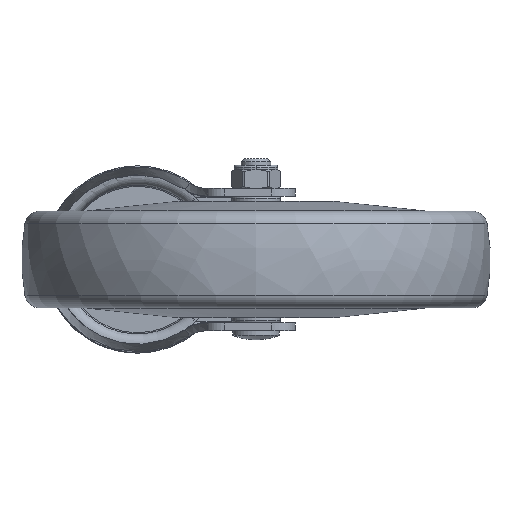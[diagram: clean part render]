
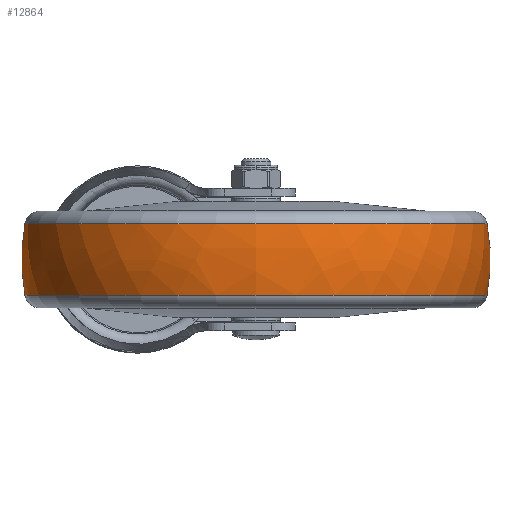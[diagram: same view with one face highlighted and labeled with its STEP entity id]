
A CAD part, front view. The second image highlights one B-rep face of the part: STEP entity #12864.
In plain terms, the highlighted free-form (B-spline) face has degree [3, 3] with [7, 4] control points.
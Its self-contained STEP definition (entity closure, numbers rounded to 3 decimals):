
#12093=CARTESIAN_POINT('',(-11.405,0.,0.));
#12094=DIRECTION('',(-1.,0.,0.));
#12095=DIRECTION('',(0.,1.,0.));
#12096=AXIS2_PLACEMENT_3D('',#12093,#12094,#12095);
#12108=CARTESIAN_POINT('',(0.,12.018,0.));
#12109=DIRECTION('',(0.,0.,1.));
#12110=DIRECTION('',(0.181,0.983,0.));
#12111=AXIS2_PLACEMENT_3D('',#12108,#12109,#12110);
#12113=CARTESIAN_POINT('',(0.,-12.018,0.));
#12114=DIRECTION('',(0.,0.,-1.));
#12115=DIRECTION('',(0.181,-0.983,0.));
#12116=AXIS2_PLACEMENT_3D('',#12113,#12114,#12115);
#12118=CARTESIAN_POINT('',(11.405,0.,0.));
#12119=DIRECTION('',(-1.,0.,0.));
#12120=DIRECTION('',(0.,1.,0.));
#12121=AXIS2_PLACEMENT_3D('',#12118,#12119,#12120);
#12370=CARTESIAN_POINT('',(11.405,73.977,0.));
#12372=VERTEX_POINT('',#12370);
#12373=CARTESIAN_POINT('',(-11.405,73.977,0.));
#12374=VERTEX_POINT('',#12373);
#12422=CARTESIAN_POINT('',(11.405,-73.977,
0.));
#12424=VERTEX_POINT('',#12422);
#12425=CARTESIAN_POINT('',(-11.405,-73.977,
0.));
#12426=VERTEX_POINT('',#12425);
#12828=CARTESIAN_POINT('',(-11.856,-73.746,
4.64));
#12829=CARTESIAN_POINT('',(-4.,-75.249,
4.734));
#12830=CARTESIAN_POINT('',(4.,-75.249,
4.734));
#12831=CARTESIAN_POINT('',(11.856,-73.746,
4.64));
#12832=CARTESIAN_POINT('',(-11.856,-76.601,
-40.744));
#12833=CARTESIAN_POINT('',(-4.,-78.162,
-41.574));
#12834=CARTESIAN_POINT('',(4.,-78.162,
-41.574));
#12835=CARTESIAN_POINT('',(11.856,-76.601,
-40.744));
#12836=CARTESIAN_POINT('',(-11.856,-45.473,
-73.892));
#12837=CARTESIAN_POINT('',(-4.,-46.399,
-75.397));
#12838=CARTESIAN_POINT('',(4.,-46.399,
-75.397));
#12839=CARTESIAN_POINT('',(11.856,-45.473,
-73.892));
#12840=CARTESIAN_POINT('',(-11.856,0.,
-73.892));
#12841=CARTESIAN_POINT('',(-4.,0.,
-75.397));
#12842=CARTESIAN_POINT('',(4.,0.,
-75.397));
#12843=CARTESIAN_POINT('',(11.856,0.,
-73.892));
#12844=CARTESIAN_POINT('',(-11.856,45.473,
-73.892));
#12845=CARTESIAN_POINT('',(-4.,46.399,
-75.397));
#12846=CARTESIAN_POINT('',(4.,46.399,
-75.397));
#12847=CARTESIAN_POINT('',(11.856,45.473,
-73.892));
#12848=CARTESIAN_POINT('',(-11.856,76.601,
-40.744));
#12849=CARTESIAN_POINT('',(-4.,78.162,
-41.574));
#12850=CARTESIAN_POINT('',(4.,78.162,
-41.574));
#12851=CARTESIAN_POINT('',(11.856,76.601,
-40.744));
#12852=CARTESIAN_POINT('',(-11.856,73.746,
4.64));
#12853=CARTESIAN_POINT('',(-4.,75.249,
4.734));
#12854=CARTESIAN_POINT('',(4.,75.249,4.734));
#12855=CARTESIAN_POINT('',(11.856,73.746,4.64));
#12856=(BOUNDED_SURFACE()B_SPLINE_SURFACE(3,3,((#12828,#12829,#12830,#12831),(
#12832,#12833,#12834,#12835),(#12836,#12837,#12838,#12839),(#12840,#12841,
#12842,#12843),(#12844,#12845,#12846,#12847),(#12848,#12849,#12850,#12851),(
#12852,#12853,#12854,#12855)),.UNSPECIFIED.,.F.,.F.,.F.)B_SPLINE_SURFACE_WITH_KNOTS((4,3,4),(4,4),(0.,1.,2.),(0.,1.),.UNSPECIFIED.)GEOMETRIC_REPRESENTATION_ITEM()RATIONAL_B_SPLINE_SURFACE(((1.198,1.184,
1.184,1.198),(0.946,0.935,
0.935,0.946),(0.946,0.935,
0.935,0.946),(1.198,1.184,
1.184,1.198),(0.946,0.935,
0.935,0.946),(0.946,0.935,
0.935,0.946),(1.198,1.184,
1.184,1.198)))REPRESENTATION_ITEM('')SURFACE());
#12857=ORIENTED_EDGE('',*,*,#12818,.T.);
#12858=ORIENTED_EDGE('',*,*,#12771,.T.);
#12859=ORIENTED_EDGE('',*,*,#12822,.F.);
#12861=ORIENTED_EDGE('',*,*,#12860,.F.);
#12862=EDGE_LOOP('',(#12857,#12858,#12859,#12861));
#12863=FACE_OUTER_BOUND('',#12862,.F.);
#12097=CIRCLE('',#12096,73.977);
#12112=CIRCLE('',#12111,63.);
#12117=CIRCLE('',#12116,63.);
#12122=CIRCLE('',#12121,73.977);
#12771=EDGE_CURVE('',#12374,#12426,#12097,.T.);
#12818=EDGE_CURVE('',#12372,#12374,#12112,.T.);
#12822=EDGE_CURVE('',#12424,#12426,#12117,.T.);
#12860=EDGE_CURVE('',#12372,#12424,#12122,.T.);
#12864=ADVANCED_FACE('',(#12863),#12856,.T.);
